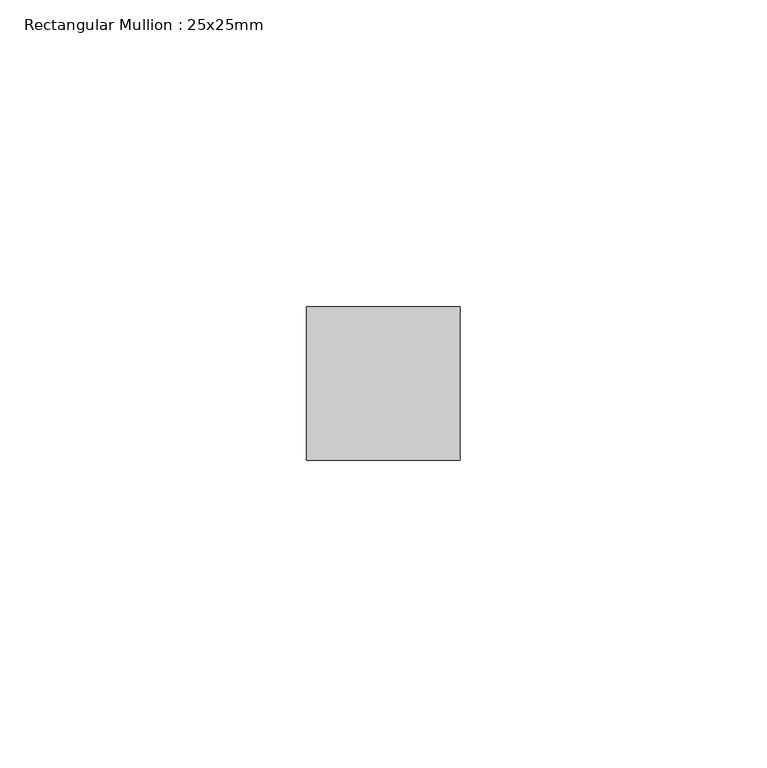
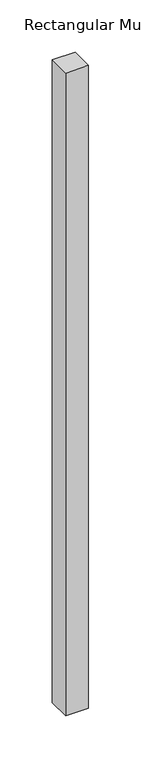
"""IFC4 building model written with IfcOpenShell, lengths in millimetres: member geometry, Rectangular Mullion : 25x25mm."""

import ifcopenshell
import ifcopenshell.guid

model = None  # the IFC model being written
_history = None  # IfcOwnerHistory: only IFC2X3 demands one
_inside = {}  # id of a spatial element -> (the spatial element, [elements in it])
_under = {}  # id of a project, library or spatial element -> (it, [spatial elements below it])
_declared = {}  # id of a project -> (the project, [libraries it declares])
_typed = {}  # id of a type object -> (the type object, [elements of that type])
_made_of = {}  # id of a material, layer set ... -> (it, [elements and type objects made of it])


def new_model(schema):
    """Start an empty IFC model of exactly this schema.

    Asked for "IFC4X3", IfcOpenShell would pick the latest addendum, in which some entities
    have other attributes; the version numbers below select the first issue.
    IFC2X3 requires an IfcOwnerHistory on every rooted entity: one is made here for all.
    """
    global model, _history
    if schema == "IFC4X3":
        model = ifcopenshell.file(schema_version=(4, 3, 0, 0))
    else:
        model = ifcopenshell.file(schema=schema)
    _inside.clear()
    _under.clear()
    _declared.clear()
    _typed.clear()
    _made_of.clear()
    _history = None
    if model.schema == "IFC2X3":
        org = make("IfcOrganization", Name="unknown")
        user = make(
            "IfcPersonAndOrganization",
            ThePerson=make("IfcPerson", FamilyName="unknown"),
            TheOrganization=org,
        )
        app = make(
            "IfcApplication",
            ApplicationDeveloper=org,
            Version="unknown",
            ApplicationFullName="unknown",
            ApplicationIdentifier="unknown",
        )
        _history = make(
            "IfcOwnerHistory",
            OwningUser=user,
            OwningApplication=app,
            ChangeAction="ADDED",
            CreationDate=0,
        )
    return model


def make(cls, **values):
    """One entity of the class cls with the attributes given. An attribute that is None is left unset."""
    return model.create_entity(
        cls, **{name: value for name, value in values.items() if value is not None}
    )


def rooted(cls, **values):
    """An entity with a GlobalId (a new one), such as an element, a storey or a relation."""
    return make(cls, GlobalId=ifcopenshell.guid.new(), OwnerHistory=_history, **values)


def si_unit(unit_type, name, prefix=None):
    """IfcSIUnit, for example si_unit("LENGTHUNIT", "METRE", prefix="MILLI")."""
    return make("IfcSIUnit", UnitType=unit_type, Prefix=prefix, Name=name)


def assignment(units):
    """IfcUnitAssignment: the units of a project."""
    return None if units is None else make("IfcUnitAssignment", Units=units)


def point(xyz):
    """IfcCartesianPoint."""
    return None if xyz is None else make("IfcCartesianPoint", Coordinates=xyz)


def direction(xyz):
    """IfcDirection."""
    return None if xyz is None else make("IfcDirection", DirectionRatios=xyz)


def frame(location, z_axis=None, x_axis=None):
    """IfcAxis2Placement3D, a coordinate frame: its origin and axes. An axis left out is left unset."""
    return make(
        "IfcAxis2Placement3D",
        Location=point(location),
        Axis=direction(z_axis),
        RefDirection=direction(x_axis),
    )


def origin():
    """The frame at (0, 0, 0) with its axes left unset."""
    return frame((0.0, 0.0, 0.0))


def place(relative_to, where):
    """IfcLocalPlacement: puts the frame where relative to a parent placement (None: the world)."""
    return make(
        "IfcLocalPlacement", PlacementRelTo=relative_to, RelativePlacement=where
    )


def context(
    kind, dimensions, precision=None, world=None, true_north=None, identifier=None
):
    """IfcGeometricRepresentationContext, for example the 3D "Model" context."""
    return make(
        "IfcGeometricRepresentationContext",
        ContextIdentifier=identifier,
        ContextType=kind,
        CoordinateSpaceDimension=dimensions,
        Precision=precision,
        WorldCoordinateSystem=world,
        TrueNorth=true_north,
    )


def project(units=None, contexts=None):
    """IfcProject with its units and contexts."""
    return rooted(
        "IfcProject",
        Name="project",
        RepresentationContexts=contexts,
        UnitsInContext=assignment(units),
    )


def spatial(cls, under=None, at=None, **own):
    """A site, building, storey or space (cls), placed at a placement, below another one or the project."""
    s = rooted(cls, ObjectPlacement=at, **own)
    if under is not None:
        _under.setdefault(under.id(), (under, []))[1].append(s)
    return s


def polyline(points):
    """IfcPolyline through the points."""
    return make("IfcPolyline", Points=[point(p) for p in points])


def outline(outer, holes=None, kind="AREA"):
    """IfcArbitraryClosedProfileDef: a profile drawn as a closed curve; with holes, ...WithVoids."""
    if holes is None:
        return make("IfcArbitraryClosedProfileDef", ProfileType=kind, OuterCurve=outer)
    return make(
        "IfcArbitraryProfileDefWithVoids",
        ProfileType=kind,
        OuterCurve=outer,
        InnerCurves=holes,
    )


def extrude(swept, where, along, depth):
    """IfcExtrudedAreaSolid: the profile swept, set in the frame where, extruded along a direction by depth."""
    return make(
        "IfcExtrudedAreaSolid",
        SweptArea=swept,
        Position=where,
        ExtrudedDirection=direction(along),
        Depth=depth,
    )


def shape(context_of_items, identifier, shape_type, items):
    """IfcShapeRepresentation: the items that make up one representation, for example the "Body"."""
    return make(
        "IfcShapeRepresentation",
        ContextOfItems=context_of_items,
        RepresentationIdentifier=identifier,
        RepresentationType=shape_type,
        Items=items,
    )


def source(mapping_origin, context_of_items, identifier, shape_type, items):
    """IfcRepresentationMap: a shape defined once, which mapped items show again and again."""
    return make(
        "IfcRepresentationMap",
        MappingOrigin=mapping_origin,
        MappedRepresentation=shape(context_of_items, identifier, shape_type, items),
    )


def transform(
    local_origin,
    x_axis=None,
    y_axis=None,
    z_axis=None,
    scale=None,
    scale2=None,
    scale3=None,
    uniform=True,
):
    """IfcCartesianTransformationOperator3D, or its non-uniform kind. x_axis, y_axis, z_axis: its Axis1, 2, 3."""
    if uniform:
        return make(
            "IfcCartesianTransformationOperator3D",
            Axis1=direction(x_axis),
            Axis2=direction(y_axis),
            LocalOrigin=point(local_origin),
            Scale=scale,
            Axis3=direction(z_axis),
        )
    return make(
        "IfcCartesianTransformationOperator3DnonUniform",
        Axis1=direction(x_axis),
        Axis2=direction(y_axis),
        LocalOrigin=point(local_origin),
        Scale=scale,
        Axis3=direction(z_axis),
        Scale2=scale2,
        Scale3=scale3,
    )


def mapped(mapping_source, mapping_target):
    """IfcMappedItem: shows the shape of a source again, moved by a transform."""
    return make(
        "IfcMappedItem", MappingSource=mapping_source, MappingTarget=mapping_target
    )


def made_of(thing, what):
    """Note that an element or type object is made of a material, layer set ...; save() writes the relation."""
    if what is not None:
        _made_of.setdefault(what.id(), (what, []))[1].append(thing)
    return thing


def element(
    cls,
    number,
    at=None,
    inside=None,
    cuts=None,
    type_object=None,
    material=None,
    context=None,
    identifier="Body",
    shape_type=None,
    held_by="IfcProductDefinitionShape",
    body=None,
    shapes=None,
    **own,
):
    """One element of the class cls, such as IfcWall. Its Tag is "e" and its number.

    at: its placement. inside: the storey or other place that contains it. cuts: it is an
    opening in that element (IfcRelVoidsElement). A single representation is given by context,
    identifier, shape_type and body (its items); several are given by shapes. held_by: the class
    of the entity that holds the representations. save() writes the other relations.
    """
    e = rooted(cls, Tag="e%d" % number, ObjectPlacement=at, **own)
    if body is not None:
        shapes = [shape(context, identifier, shape_type, body)]
    if shapes is not None:
        e.Representation = make(held_by, Representations=shapes)
    if inside is not None:
        _inside.setdefault(inside.id(), (inside, []))[1].append(e)
    if cuts is not None:
        rooted(
            "IfcRelVoidsElement", RelatingBuildingElement=cuts, RelatedOpeningElement=e
        )
    if type_object is not None:
        _typed.setdefault(type_object.id(), (type_object, []))[1].append(e)
    return made_of(e, material)


def aggregate(whole, parts):
    """IfcRelAggregates: a whole, such as a stair, and the parts it consists of."""
    return rooted("IfcRelAggregates", RelatingObject=whole, RelatedObjects=parts)


def save(model, path):
    """Write the relations noted so far, then the file.

    IfcRelAggregates (storeys below a building ...), IfcRelContainedInSpatialStructure (elements
    in a storey), IfcRelDefinesByType, IfcRelAssociatesMaterial and IfcRelDeclares: one each for
    every whole, place, type object, material and project.
    """
    for whole, parts in _under.values():
        aggregate(whole, parts)
    for where, things in _inside.values():
        rooted(
            "IfcRelContainedInSpatialStructure",
            RelatedElements=things,
            RelatingStructure=where,
        )
    for kind, things in _typed.values():
        rooted("IfcRelDefinesByType", RelatedObjects=things, RelatingType=kind)
    for what, things in _made_of.values():
        rooted("IfcRelAssociatesMaterial", RelatedObjects=things, RelatingMaterial=what)
    for by, libraries in _declared.values():
        rooted("IfcRelDeclares", RelatingContext=by, RelatedDefinitions=libraries)
    model.write(path)


def rectangular_mullion_25x25mm_920d8240(model_context):
    return source(origin(), model_context, "Body", "SweptSolid", [
        extrude(outline(polyline([(0.0, 24.5), (0.0, -0.5), (-25.0, -0.5), (-25.0, 24.5), (0.0, 24.5)])), frame((0.0, 0.0, -747.4999998), z_axis=(0.0, 0.0, 1.0), x_axis=(1.0, 0.0, 0.0)), (0.0, 0.0, 1.0), 747.4999998),
    ])


if __name__ == "__main__":
    model = new_model("IFC4")
    model_context = context("Model", 3, world=origin())
    ifc_project = project(units=[si_unit("LENGTHUNIT", "METRE", prefix="MILLI")], contexts=[model_context])
    site = spatial("IfcSite", under=ifc_project)
    building = spatial("IfcBuilding", under=site)
    placement = place(None, origin())
    rectangular_mullion_25x25mm_shape = rectangular_mullion_25x25mm_920d8240(model_context)
    element("IfcMember", 1, ObjectType="Rectangular Mullion : 25x25mm", at=placement, inside=building, context=model_context, shape_type="MappedRepresentation", body=[
        mapped(rectangular_mullion_25x25mm_shape, transform((0.0, 0.0, 0.0), x_axis=(1.0, 0.0, 0.0), y_axis=(0.0, 1.0, 0.0), z_axis=(0.0, 0.0, 1.0))),
    ])
    save(model, "model.ifc")
